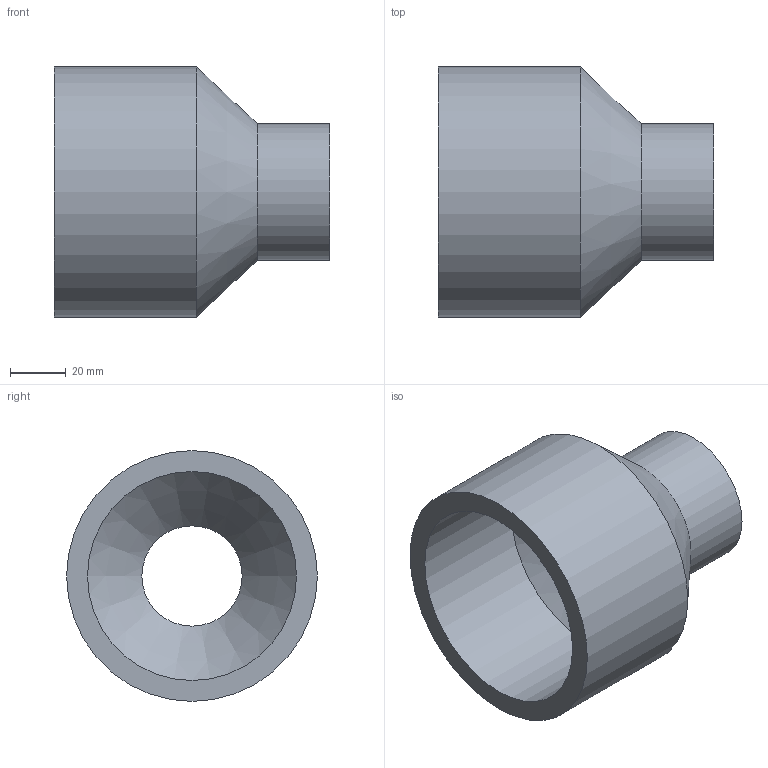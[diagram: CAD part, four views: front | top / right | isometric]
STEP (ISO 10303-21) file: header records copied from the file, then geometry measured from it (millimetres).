
FILE_DESCRIPTION(/* description */ ('PLASSON REDUCING SOCKET M.F.90(75)40 CEMENTED'),/* implementation_level */ '2;1');
FILE_NAME(/* name */ 'C:\Dropbox\KIMPROJECTS-Inventor\99-16-3568-Processing\PVC Catalog 2017\050200\050200090040.ipt.stp',/* time_stamp */ '2017-12-07T15:52:45+02:00',/* author */ ('KIM'),/* organization */ (''),/* preprocessor_version */ 'ST-DEVELOPER v15.6',/* originating_system */ 'Autodesk Inventor 2015',/* authorisation */ '');
FILE_SCHEMA (('AUTOMOTIVE_DESIGN { 1 0 10303 214 3 1 1 }'));
Length unit declared in the file: millimetre
Products named in the file (1): 050200090040
Bounding box: 99 x 90 x 90 mm (x, y, z)
Volume: 171372.4 mm3; surface area: 47334.6 mm2
Topology: 1 solids, 1 shells, 10 faces, 17 edges, 10 vertices
Faces by surface type: cylinder 5, plane 3, cone 2
Full cylindrical faces by diameter (mm): 36 x1, 40 x1, 49 x1, 75 x1, 90 x1
Entity records: 232 total; most frequent: DIRECTION 42, CARTESIAN_POINT 31, AXIS2_PLACEMENT_3D 21, EDGE_LOOP 20, ORIENTED_EDGE 20, FACE_BOUND 10, FACE_OUTER_BOUND 10, CIRCLE 10
